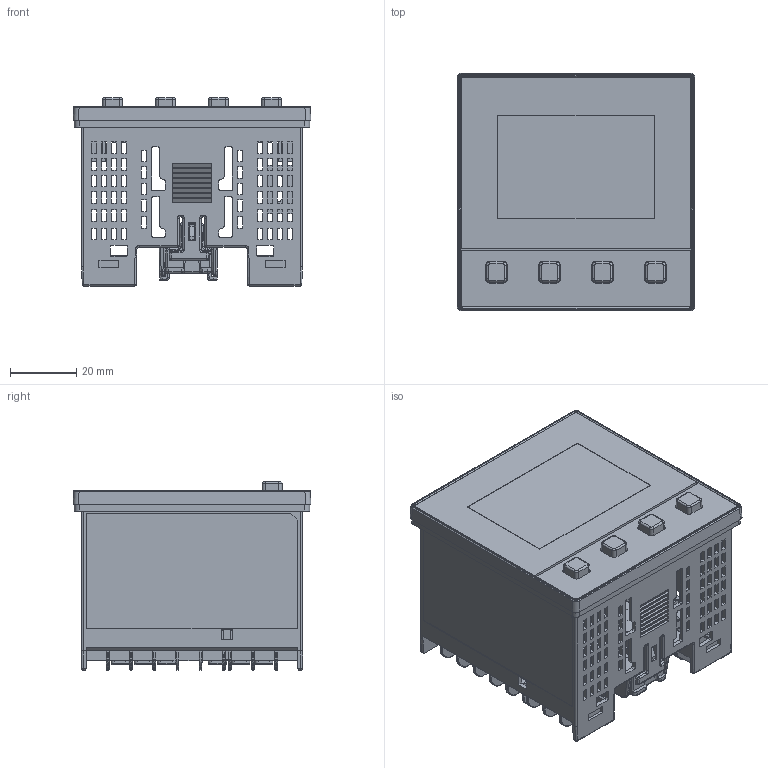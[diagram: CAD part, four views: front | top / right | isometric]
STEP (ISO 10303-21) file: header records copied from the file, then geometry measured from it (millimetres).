
FILE_DESCRIPTION((''),'2;1');
FILE_NAME('ME_C72_ASM','2018-05-24T',('Harry'),(''),'CREO PARAMETRIC BY PTC INC, 2014350','CREO PARAMETRIC BY PTC INC, 2014350','');
FILE_SCHEMA(('CONFIG_CONTROL_DESIGN','GEOMETRIC_VALIDATION_PROPERTIES_MIM'));
Products named in the file (11): ME_C72_COVER_FRONT; ME_C72_HOUSING; ME_C72_DECO_FRONT; ME_C72_O-RING_IN; ME_C72_O-RING_OUT; ME_C72_LCD_GLASS; ME_C72_PCB_CNTL_SET_ASM; ME_C72_PCB_SET_ASM; ME_C72_RBKY; ME_C72_COVER_OPT; ME_C72_ASM
Assembly tree (13 placements, depth 4):
  ME_C72_ASM
    ME_C72_COVER_FRONT
    ME_C72_HOUSING
    ME_C72_DECO_FRONT
    ME_C72_O-RING_IN
    ME_C72_O-RING_OUT
    ME_C72_PCB_SET_ASM
      ME_C72_PCB_CNTL_SET_ASM
        ME_C72_LCD_GLASS
    ME_C72_RBKY  x4
    ME_C72_COVER_OPT
Bounding box: 71.8 x 71.8 x 56.8 mm (x, y, z)
Volume: 41864.5 mm3; surface area: 79226.2 mm2
Topology: 11 solids, 11 shells, 4102 faces, 11038 edges, 7018 vertices
Faces by surface type: plane 2756, cylinder 874, bspline 254, cone 142, torus 44, sphere 32
Entity records: 160585 total; most frequent: CARTESIAN_POINT 39314, ORIENTED_EDGE 20984, DIRECTION 17794, EDGE_CURVE 10492, VECTOR 8418, LINE 8418, PRESENTATION_STYLE_ASSIGNMENT 8372, STYLED_ITEM 8370
